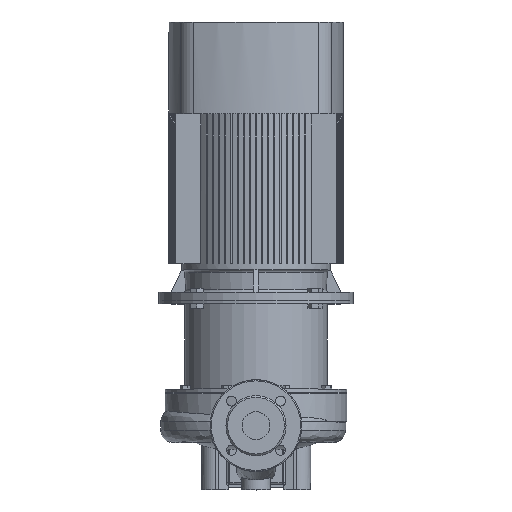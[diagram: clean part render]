
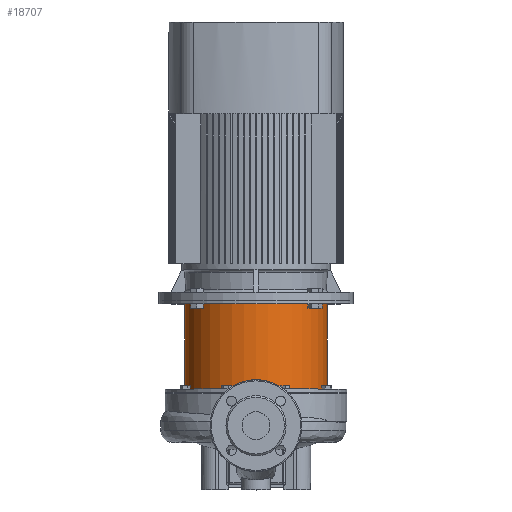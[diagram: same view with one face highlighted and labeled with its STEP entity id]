
A CAD part, top view. The second image highlights one B-rep face of the part: STEP entity #18707.
In plain terms, the highlighted cylindrical face has radius 128 mm (diameter 256 mm), a partial arc.
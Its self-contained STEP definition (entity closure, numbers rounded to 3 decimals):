
#394 = CYLINDRICAL_SURFACE ( 'NONE', #6230, 128. ) ;
#402 = VECTOR ( 'NONE', #10035, 1000. ) ;
#408 = CARTESIAN_POINT ( 'NONE',  ( -128., 0., -159. ) ) ;
#927 = EDGE_CURVE ( 'NONE', #22867, #10588, #25002, .T. ) ;
#2784 = EDGE_LOOP ( 'NONE', ( #9963, #16986, #2948, #18030 ) ) ;
#2948 = ORIENTED_EDGE ( 'NONE', *, *, #6393, .T. ) ;
#3329 = LINE ( 'NONE', #20713, #402 ) ;
#4127 = DIRECTION ( 'NONE',  ( 1., 0., 0. ) ) ;
#4815 = EDGE_CURVE ( 'NONE', #10588, #5821, #13469, .T. ) ;
#5821 = VERTEX_POINT ( 'NONE', #27516 ) ;
#6230 = AXIS2_PLACEMENT_3D ( 'NONE', #9108, #19782, #26196 ) ;
#6393 = EDGE_CURVE ( 'NONE', #25159, #5821, #3329, .T. ) ;
#6679 = CARTESIAN_POINT ( 'NONE',  ( 0., 0., -159. ) ) ;
#7640 = CARTESIAN_POINT ( 'NONE',  ( 0., 0., -6. ) ) ;
#8780 = VECTOR ( 'NONE', #24848, 1000. ) ;
#9108 = CARTESIAN_POINT ( 'NONE',  ( 0., 0., 14.36 ) ) ;
#9963 = ORIENTED_EDGE ( 'NONE', *, *, #927, .F. ) ;
#10035 = DIRECTION ( 'NONE',  ( 0., 0., 1. ) ) ;
#10549 = DIRECTION ( 'NONE',  ( 0., 0., 1. ) ) ;
#10588 = VERTEX_POINT ( 'NONE', #20624 ) ;
#11903 = CARTESIAN_POINT ( 'NONE',  ( -128., 0., 14.36 ) ) ;
#13469 = CIRCLE ( 'NONE', #13944, 128. ) ;
#13944 = AXIS2_PLACEMENT_3D ( 'NONE', #7640, #14207, #16329 ) ;
#14207 = DIRECTION ( 'NONE',  ( 0., 0., 1. ) ) ;
#16329 = DIRECTION ( 'NONE',  ( 1., 0., 0. ) ) ;
#16986 = ORIENTED_EDGE ( 'NONE', *, *, #19662, .T. ) ;
#18030 = ORIENTED_EDGE ( 'NONE', *, *, #4815, .F. ) ;
#18707 = ADVANCED_FACE ( 'NONE', ( #26614 ), #394, .T. ) ;
#19662 = EDGE_CURVE ( 'NONE', #22867, #25159, #25823, .T. ) ;
#19782 = DIRECTION ( 'NONE',  ( 0., 0., 1. ) ) ;
#20624 = CARTESIAN_POINT ( 'NONE',  ( -128., 0., -6. ) ) ;
#20713 = CARTESIAN_POINT ( 'NONE',  ( 128., 0., 14.36 ) ) ;
#22867 = VERTEX_POINT ( 'NONE', #408 ) ;
#23910 = CARTESIAN_POINT ( 'NONE',  ( 128., 0., -159. ) ) ;
#24848 = DIRECTION ( 'NONE',  ( 0., 0., 1. ) ) ;
#25002 = LINE ( 'NONE', #11903, #8780 ) ;
#25159 = VERTEX_POINT ( 'NONE', #23910 ) ;
#25823 = CIRCLE ( 'NONE', #27661, 128. ) ;
#26196 = DIRECTION ( 'NONE',  ( 1., 0., 0. ) ) ;
#26614 = FACE_OUTER_BOUND ( 'NONE', #2784, .T. ) ;
#27516 = CARTESIAN_POINT ( 'NONE',  ( 128., 0., -6. ) ) ;
#27661 = AXIS2_PLACEMENT_3D ( 'NONE', #6679, #10549, #4127 ) ;
